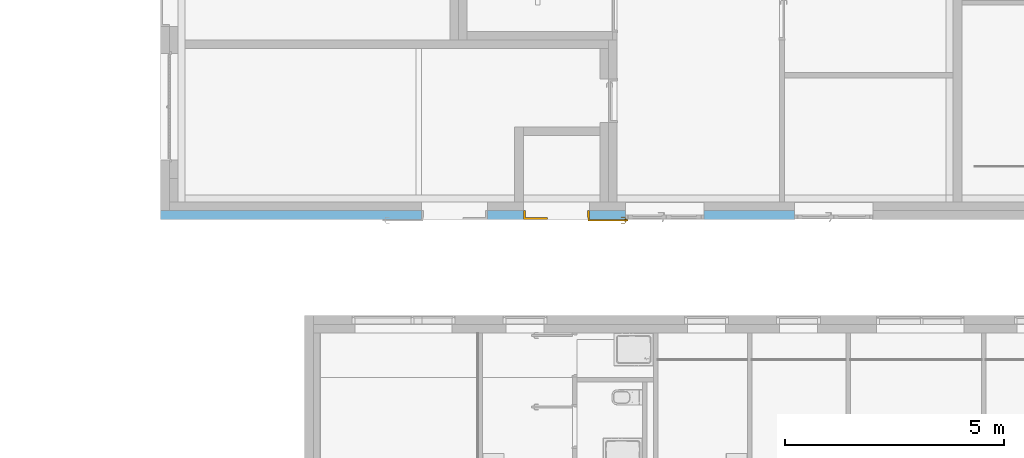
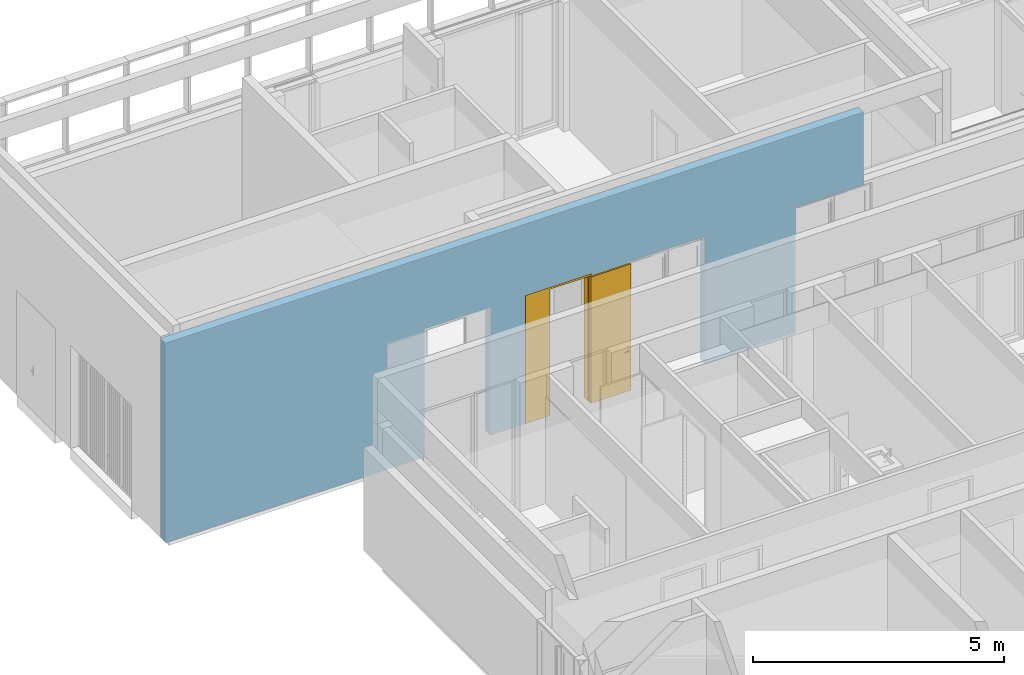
# One storey, part 207 of 240: 1 door, 10 openings, plus 1 element that does not belong to this part.
"""IFC2X3 building model written with IfcOpenShell, lengths in centimetres."""

from ifc_helpers import new_model, entity, si_unit, converted_unit, derived_unit, direction, frame, frame_2d, origin, place, context, subcontext, project, spatial, rectangle, extrude, faceted_brep, source, transform, mapped, material, material_list, layer, layer_set, layer_usage, type_object, type_shapes, element, fill, save


model = new_model("IFC2X3")

# Units and contexts
model_context = context("Model", 3, precision=0.001, world=origin(), true_north=direction((6.12303176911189e-17, 1.0)))
body_context = subcontext(model_context, "Body", "Model", "MODEL_VIEW")
ifc_project = project(units=[si_unit("LENGTHUNIT", "METRE", prefix="CENTI"), si_unit("AREAUNIT", "SQUARE_METRE"), si_unit("VOLUMEUNIT", "CUBIC_METRE"), converted_unit("PLANEANGLEUNIT", "DEGREE", entity("IfcRatioMeasure", 0.0174532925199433), si_unit("PLANEANGLEUNIT", "RADIAN"), dimensions=[0, 0, 0, 0, 0, 0, 0]), si_unit("MASSUNIT", "GRAM", prefix="KILO"), derived_unit("MASSDENSITYUNIT", [(si_unit("MASSUNIT", "GRAM", prefix="KILO"), 1), (si_unit("LENGTHUNIT", "METRE"), -3)]), si_unit("TIMEUNIT", "SECOND"), si_unit("FREQUENCYUNIT", "HERTZ"), si_unit("THERMODYNAMICTEMPERATUREUNIT", "DEGREE_CELSIUS"), derived_unit("THERMALTRANSMITTANCEUNIT", [(si_unit("MASSUNIT", "GRAM", prefix="KILO"), 1), (si_unit("THERMODYNAMICTEMPERATUREUNIT", "KELVIN"), -1), (si_unit("TIMEUNIT", "SECOND"), -3)]), derived_unit("VOLUMETRICFLOWRATEUNIT", [(si_unit("LENGTHUNIT", "METRE"), 3), (si_unit("TIMEUNIT", "SECOND"), -1)]), si_unit("ELECTRICCURRENTUNIT", "AMPERE"), si_unit("ELECTRICVOLTAGEUNIT", "VOLT"), si_unit("POWERUNIT", "WATT"), si_unit("FORCEUNIT", "NEWTON", prefix="KILO"), si_unit("ILLUMINANCEUNIT", "LUX"), si_unit("LUMINOUSFLUXUNIT", "LUMEN"), si_unit("LUMINOUSINTENSITYUNIT", "CANDELA"), derived_unit("USERDEFINED", [(si_unit("MASSUNIT", "GRAM", prefix="KILO"), -1), (si_unit("LENGTHUNIT", "METRE"), -2), (si_unit("TIMEUNIT", "SECOND"), 3), (si_unit("LUMINOUSFLUXUNIT", "LUMEN"), 1)]), derived_unit("LINEARVELOCITYUNIT", [(si_unit("LENGTHUNIT", "METRE"), 1), (si_unit("TIMEUNIT", "SECOND"), -1)]), si_unit("PRESSUREUNIT", "PASCAL"), derived_unit("USERDEFINED", [(si_unit("LENGTHUNIT", "METRE"), -2), (si_unit("MASSUNIT", "GRAM", prefix="KILO"), 1), (si_unit("TIMEUNIT", "SECOND"), -2)])], contexts=[model_context])

# Site, building, storey
site_placement = place(None, frame((-2781.94577612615, 7442.24238424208, 0.0)))
site = spatial("IfcSite", under=ifc_project, at=site_placement, Name="Default", CompositionType="ELEMENT")
building_placement = place(site_placement, origin())
building = spatial("IfcBuilding", under=site, at=building_placement, CompositionType="ELEMENT")
storey_placement = place(building_placement, origin())
storey = spatial("IfcBuildingStorey", under=building, at=storey_placement, Name="N00 - COO", CompositionType="ELEMENT", Elevation=0.0)

# Wall, openings, door
ifc_material_1 = material(Name="Aluminium bardage")
ifc_layer_1 = layer(ifc_material_1, 0.5)
ifc_material_2 = material(Name="01 - Lame d'air")
ifc_layer_2 = layer(ifc_material_2, 1.5)
ifc_material_3 = material(Name="00 - Isolant")
ifc_layer_3 = layer(ifc_material_3, 18.0)
ifc_layer_set = layer_set([ifc_layer_1, ifc_layer_2, ifc_layer_3], Name="Mur de base:04 - Parement - ITE 18cm + vide 2cm")
ifc_layer_usage = layer_usage(ifc_layer_set, "AXIS2", "POSITIVE", -10.0)
wall_type = type_object("IfcWallType", Name="Mur de base:04 - Parement - ITE 18cm + vide 2cm", PredefinedType="STANDARD", material=ifc_layer_set)
wall_placement = place(building_placement, frame((-11230.6616968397, -840.048500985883, 0.0)))
wall = element("IfcWallStandardCase", 1, at=wall_placement, inside=storey, type_object=wall_type, material=ifc_layer_usage, Name="Mur de base:04 - Parement - ITE 18cm + vide 2cm", ObjectType="Mur de base:04 - Parement - ITE 18cm + vide 2cm", context=body_context, shape_type="SweptSolid", body=[
    extrude(rectangle(XDim=1606.16181917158, YDim=20.0, at=frame_2d((803.080909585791, 2.04281036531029e-14), x_axis=(-1.0, 0.0))), origin(), (0.0, 0.0, 1.0), 486.0),
])
opening_1_placement = place(wall_placement, origin())
element("IfcOpeningElement", 2, at=opening_1_placement, cuts=wall, Name="Mur de base:04 - Parement - ITE 18cm + vide 2cm", ObjectType="Opening", context=body_context, shape_type="SweptSolid", body=[
    extrude(rectangle(XDim=310.999999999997, YDim=99.9999999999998, at=frame_2d((-8.66862137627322e-13, 0.0), x_axis=(0.0, 1.0))), frame((2089.66181923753, -25.24, 155.499999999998), z_axis=(0.0, 1.0, 0.0), x_axis=(-1.0, 0.0, 0.0)), (0.0, 0.0, 1.0), 50.48),
])
opening_2_placement = place(wall_placement, origin())
element("IfcOpeningElement", 3, at=opening_2_placement, cuts=wall, Name="Mur de base:04 - Parement - ITE 18cm + vide 2cm", ObjectType="Opening", context=body_context, shape_type="SweptSolid", body=[
    extrude(rectangle(XDim=224.0, YDim=91.9999999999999, at=frame_2d((2.1316282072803e-14, 0.0), x_axis=(1.0, 0.0))), frame((2591.66181917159, -142.4, 197.700000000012), z_axis=(0.0, 1.0, 0.0), x_axis=(0.0, 0.0, 1.0)), (0.0, 0.0, 1.0), 304.8),
])
opening_3_placement = place(wall_placement, origin())
element("IfcOpeningElement", 4, at=opening_3_placement, cuts=wall, Name="Mur de base:04 - Parement - ITE 18cm + vide 2cm", ObjectType="Opening", context=body_context, shape_type="SweptSolid", body=[
    extrude(rectangle(XDim=316.500000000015, YDim=99.9999999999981, at=frame_2d((0.0, 0.0), x_axis=(0.0, 1.0))), frame((2591.7151206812, -25.2399999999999, 158.250000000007), z_axis=(0.0, 1.0, 0.0), x_axis=(-1.0, 0.0, 0.0)), (0.0, 0.0, 1.0), 50.48),
])
opening_4_placement = place(wall_placement, origin())
element("IfcOpeningElement", 5, at=opening_4_placement, cuts=wall, Name="Mur de base:04 - Parement - ITE 18cm + vide 2cm", ObjectType="Opening", context=body_context, shape_type="SweptSolid", body=[
    extrude(rectangle(XDim=310.999999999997, YDim=99.9999999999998, at=frame_2d((-8.66862137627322e-13, 0.0), x_axis=(0.0, 1.0))), frame((2348.66181917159, -25.2400000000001, 155.499999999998), z_axis=(0.0, 1.0, 0.0), x_axis=(-1.0, 0.0, 0.0)), (0.0, 0.0, 1.0), 50.48),
])
opening_5_placement = place(wall_placement, origin())
element("IfcOpeningElement", 6, at=opening_5_placement, cuts=wall, Name="Mur de base:04 - Parement - ITE 18cm + vide 2cm", ObjectType="Opening", context=body_context, shape_type="SweptSolid", body=[
    extrude(rectangle(XDim=224.0, YDim=91.9999999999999, at=frame_2d((-7.105427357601e-15, 0.0), x_axis=(1.0, 0.0))), frame((2348.60851766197, -142.4, 192.0), z_axis=(0.0, 1.0, 0.0), x_axis=(0.0, 0.0, 1.0)), (0.0, 0.0, 1.0), 304.8),
])
opening_6_placement = place(wall_placement, origin())
element("IfcOpeningElement", 7, at=opening_6_placement, cuts=wall, Name="Mur de base:04 - Parement - ITE 18cm + vide 2cm", ObjectType="Opening", context=body_context, shape_type="SweptSolid", body=[
    extrude(rectangle(XDim=224.0, YDim=91.9999999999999, at=frame_2d((-7.105427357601e-15, 0.0), x_axis=(1.0, 0.0))), frame((2089.60851772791, -142.4, 192.0), z_axis=(0.0, 1.0, 0.0), x_axis=(0.0, 0.0, 1.0)), (0.0, 0.0, 1.0), 304.8),
])
opening_7_placement = place(wall_placement, frame((747.161819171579, 10.0, 0.0)))
element("IfcOpeningElement", 8, at=opening_7_placement, cuts=wall, Name="Int. Tierce:PP (1.80m x 3.11m):1", ObjectType="Opening", context=body_context, shape_type="SweptSolid", body=[
    extrude(rectangle(XDim=311.000000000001, YDim=151.0, at=frame_2d((155.500000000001, 75.5000000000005), x_axis=(1.0, 0.0))), frame((0.0, 0.0, 0.0), z_axis=(0.0, -1.0, 0.0), x_axis=(0.0, 0.0, 1.0)), (0.0, 0.0, 1.0), 20.0),
])
opening_8_placement = place(wall_placement, frame((11230.6616968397, 840.048500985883, 0.0)))
element("IfcOpeningElement", 9, at=opening_8_placement, cuts=wall, Name="Mur de base:04 - Parement - ITE 18cm + vide 2cm", ObjectType="Opening", context=body_context, shape_type="SweptSolid", body=[
    extrude(rectangle(XDim=326.0, YDim=179.999999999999, at=frame_2d((0.0, 8.66862137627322e-13), x_axis=(1.0, 0.0))), frame((-10078.6616968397, -850.148500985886, 148.0), z_axis=(0.0, 1.0, 0.0), x_axis=(0.0, 0.0, -1.0)), (0.0, 0.0, 1.0), 61.3),
])
opening_9_placement = place(wall_placement, frame((1448.16181917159, -10.1000000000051, -15.0)))
element("IfcOpeningElement", 10, at=opening_9_placement, cuts=wall, Name="Mur de base:04 - Parement - ITE 18cm + vide 2cm", ObjectType="Opening", context=body_context, shape_type="Brep", body=[
    faceted_brep([(178.0, 0.0, 324.0), (2.0, 0.0, 324.0), (2.0, 0.0, 0.0), (178.0, 0.0, 0.0), (178.0, 1.2999999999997, 0.0), (178.0, 1.29999999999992, 324.0), (2.0, 1.30000000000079, 0.0), (0.0, 1.30000000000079, 0.0), (0.0, 61.3000000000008, 0.0), (180.0, 61.2999999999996, 0.0), (180.0, 1.2999999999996, 0.0), (2.0, 1.30000000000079, 324.0), (0.0, 61.3000000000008, 326.0), (180.0, 61.2999999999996, 326.0), (0.0, 1.30000000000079, 326.0), (180.0, 1.2999999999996, 326.0)], [[[0, 1, 2, 3]], [[3, 4, 5, 0]], [[2, 6, 7, 8, 9, 10, 4, 3]], [[1, 11, 6, 2]], [[0, 5, 11, 1]], [[12, 13, 9, 8]], [[14, 7, 6, 11, 5, 4, 10, 15]], [[8, 7, 14, 12]], [[13, 15, 10, 9]], [[12, 14, 15, 13]]]),
])
opening_10_placement = place(wall_placement, frame((980.080909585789, 10.0, 0.0)))
opening_10 = element("IfcOpeningElement", 11, at=opening_10_placement, cuts=wall, Name="Int. Tierce:PP (1.80m x 3.11m):1", ObjectType="Opening", context=body_context, shape_type="SweptSolid", body=[
    extrude(rectangle(XDim=311.000000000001, YDim=151.0, at=frame_2d((155.500000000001, 75.4999999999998), x_axis=(1.0, 0.0))), frame((0.0, 0.0, 0.0), z_axis=(0.0, -1.0, 0.0), x_axis=(0.0, 0.0, 1.0)), (0.0, 0.0, 1.0), 20.0),
])
ifc_material_4 = material(Name="Finition Peinture - Blanc satiné")
ifc_material_5 = material(Name="Bois - Panneau de porte")
ifc_material_6 = material(Name="Bois - Cadre de porte")
ifc_material_list_1 = material_list([ifc_material_4, ifc_material_5, ifc_material_6])
ifc_material_list_2 = material_list([ifc_material_4, ifc_material_5, ifc_material_6])
door_style = type_object("IfcDoorStyle", Name="PP (1.80m x 3.11m)", ConstructionType="NOTDEFINED", OperationType="DOUBLE_DOOR_SINGLE_SWING", ParameterTakesPrecedence=False, Sizeable=False, material=ifc_material_list_2)
shared_shape = source(origin(), body_context, "Body", "Brep", [
    faceted_brep([(239.464723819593, 0.49999999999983, 86.6003983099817), (238.500000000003, 0.499999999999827, 87.0), (238.500000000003, 0.499999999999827, 108.0), (239.464723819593, 0.49999999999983, 108.399601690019), (240.500000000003, 0.499999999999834, 108.535898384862), (241.535276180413, 0.499999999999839, 108.399601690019), (242.500000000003, 0.499999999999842, 108.0), (242.500000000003, 0.499999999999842, 87.0), (241.535276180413, 0.499999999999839, 86.6003983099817), (240.500000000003, 0.499999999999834, 86.464101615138), (239.464723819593, 0.0, 108.399601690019), (238.500000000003, 0.0, 108.0), (238.500000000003, 0.0, 87.0), (239.464723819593, 0.0, 86.6003983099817), (240.500000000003, 0.0, 86.464101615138), (241.535276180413, 0.0, 86.6003983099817), (242.500000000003, 0.0, 87.0), (242.500000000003, 0.0, 108.0), (241.535276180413, 0.0, 108.399601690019), (240.500000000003, 0.0, 108.535898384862)], [[[0, 1, 2, 3, 4, 5, 6, 7, 8, 9]], [[10, 11, 12, 13, 14, 15, 16, 17, 18, 19]], [[16, 15, 8, 7]], [[8, 15, 14, 9]], [[14, 13, 0, 9]], [[13, 12, 1, 0]], [[2, 1, 12, 11]], [[11, 10, 3, 2]], [[3, 10, 19, 4]], [[19, 18, 5, 4]], [[18, 17, 6, 5]], [[7, 6, 17, 16]]]),
    faceted_brep([(239.464723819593, -4.0, 86.6003983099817), (238.500000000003, -4.0, 87.0), (238.500000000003, -4.0, 108.0), (239.464723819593, -4.0, 108.399601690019), (240.500000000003, -4.0, 108.535898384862), (241.535276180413, -4.0, 108.399601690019), (242.500000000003, -4.0, 108.0), (242.500000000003, -4.0, 87.0), (241.535276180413, -4.0, 86.6003983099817), (240.500000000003, -4.0, 86.464101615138), (239.464723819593, -4.50000000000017, 108.399601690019), (238.500000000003, -4.50000000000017, 108.0), (238.500000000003, -4.50000000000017, 87.0), (239.464723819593, -4.50000000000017, 86.6003983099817), (240.500000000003, -4.50000000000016, 86.464101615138), (241.535276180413, -4.50000000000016, 86.6003983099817), (242.500000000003, -4.50000000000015, 87.0), (242.500000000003, -4.50000000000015, 108.0), (241.535276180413, -4.50000000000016, 108.399601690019), (240.500000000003, -4.50000000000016, 108.535898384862)], [[[0, 1, 2, 3, 4, 5, 6, 7, 8, 9]], [[10, 11, 12, 13, 14, 15, 16, 17, 18, 19]], [[11, 10, 3, 2]], [[3, 10, 19, 4]], [[19, 18, 5, 4]], [[18, 17, 6, 5]], [[7, 6, 17, 16]], [[16, 15, 8, 7]], [[8, 15, 14, 9]], [[14, 13, 0, 9]], [[13, 12, 1, 0]], [[2, 1, 12, 11]]]),
    faceted_brep([(240.702529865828, 0.499999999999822, 100.778044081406), (240.297470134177, 0.499999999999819, 100.778044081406), (239.9, 0.499999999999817, 100.699999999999), (239.900000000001, 0.499999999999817, 99.3000000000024), (240.297470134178, 0.499999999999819, 99.2219559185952), (240.702529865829, 0.499999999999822, 99.221955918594), (241.100000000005, 0.499999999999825, 99.2999999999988), (241.100000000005, 0.499999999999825, 100.7), (241.100000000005, 3.26509507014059, 100.7), (240.702529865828, 3.10045754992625, 100.778044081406), (239.097641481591, 4.70534593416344, 100.778044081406), (238.92986024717, 4.30028620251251, 100.778044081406), (240.297470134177, 2.93267631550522, 100.778044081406), (239.9, 2.76803879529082, 100.7), (239.9, 2.76803879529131, 99.3000000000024), (240.297470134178, 2.93267631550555, 99.2219559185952), (238.92986024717, 4.3002862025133, 99.2219559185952), (239.097641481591, 4.70534593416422, 99.221955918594), (240.702529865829, 3.10045754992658, 99.221955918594), (241.100000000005, 3.26509507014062, 99.2999999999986), (239.262279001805, 5.10281606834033, 100.7), (238.765222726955, 3.90281606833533, 100.7), (238.765222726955, 3.9028160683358, 99.3000000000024), (239.262279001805, 5.10281606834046, 99.2999999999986), (230.498135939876, 5.1028160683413, 99.2999999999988), (230.498135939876, 4.70534593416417, 99.221955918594), (230.498135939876, 4.30028620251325, 99.2219559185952), (230.498135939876, 3.90281606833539, 99.3000000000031), (230.498135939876, 3.90281606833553, 100.7), (230.498135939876, 4.30028620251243, 100.778044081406), (230.498135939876, 4.70534593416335, 100.778044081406), (230.498135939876, 5.10281606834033, 100.699999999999), (235.269230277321, 5.10281606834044, 100.7), (234.713998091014, 4.50281606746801, 100.78786867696), (234.631679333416, 3.90281606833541, 100.7), (234.631679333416, 3.90281606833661, 99.3000000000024), (234.713998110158, 4.50281607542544, 99.2121313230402), (235.269229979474, 5.10281606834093, 99.2999999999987)], [[[0, 1, 2, 3, 4, 5, 6, 7]], [[8, 9, 0, 7]], [[9, 10, 11, 12, 1, 0]], [[12, 13, 2, 1]], [[3, 2, 13, 14]], [[14, 15, 4, 3]], [[15, 16, 17, 18, 5, 4]], [[18, 19, 6, 5]], [[7, 6, 19, 8]], [[20, 10, 9, 8]], [[11, 21, 13, 12]], [[14, 13, 21, 22]], [[22, 16, 15, 14]], [[17, 23, 19, 18]], [[8, 19, 23, 20]], [[24, 25, 26, 27, 28, 29, 30, 31]], [[32, 30, 33]], [[31, 30, 32]], [[10, 20, 32]], [[33, 34, 11]], [[21, 11, 34]], [[34, 29, 28]], [[30, 29, 33]], [[29, 34, 33]], [[10, 32, 33]], [[10, 33, 11]], [[22, 21, 34, 28, 27, 35]], [[35, 26, 36]], [[37, 36, 25]], [[22, 35, 16]], [[35, 27, 26]], [[24, 37, 25]], [[23, 17, 37]], [[37, 17, 36]], [[17, 16, 36]], [[16, 35, 36]], [[25, 36, 26]], [[20, 23, 37, 24, 31, 32]]]),
    faceted_brep([(240.702529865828, -4.50000000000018, 100.778044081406), (241.100000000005, -4.50000000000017, 100.7), (241.100000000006, -4.50000000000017, 99.2999999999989), (240.702529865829, -4.50000000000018, 99.221955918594), (240.297470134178, -4.50000000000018, 99.2219559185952), (239.9, -4.50000000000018, 99.3000000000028), (239.9, -4.50000000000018, 100.7), (240.297470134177, -4.50000000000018, 100.778044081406), (239.9, -6.74852045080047, 99.3000000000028), (239.9, -6.74852045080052, 100.7), (240.297470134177, -6.91315797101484, 100.778044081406), (238.916109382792, -8.29451872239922, 100.778044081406), (239.083890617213, -8.69957845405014, 100.778044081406), (240.702529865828, -7.08093920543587, 100.778044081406), (241.100000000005, -7.24557672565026, 100.7), (241.100000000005, -7.24557672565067, 99.2999999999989), (240.702529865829, -7.08093920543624, 99.221955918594), (239.083890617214, -8.69957845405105, 99.221955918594), (238.916109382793, -8.29451872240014, 99.2219559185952), (240.297470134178, -6.91315797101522, 99.2219559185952), (238.751471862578, -7.89704858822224, 99.3000000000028), (238.751471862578, -7.89704858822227, 100.7), (239.248528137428, -9.09704858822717, 100.7), (239.248528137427, -9.09704858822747, 99.2999999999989), (230.495421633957, -7.89704858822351, 99.3000000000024), (230.495421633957, -8.29451872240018, 99.2219559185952), (230.495421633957, -8.69957845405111, 99.221955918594), (230.495421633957, -9.09704858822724, 99.2999999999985), (230.495421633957, -9.09704858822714, 100.7), (230.495421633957, -8.69957845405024, 100.778044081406), (230.495421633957, -8.29451872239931, 100.778044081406), (230.495421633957, -7.89704858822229, 100.7), (234.623447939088, -7.89704858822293, 99.3000000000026), (234.623446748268, -7.89704858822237, 100.7), (234.70576551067, -8.49704858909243, 100.78786867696), (235.255479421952, -9.09704858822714, 100.7), (235.255479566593, -9.09704858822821, 99.2999999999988), (234.705765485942, -8.49704858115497, 99.2121313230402)], [[[0, 1, 2, 3, 4, 5, 6, 7]], [[6, 5, 8, 9]], [[9, 10, 7, 6]], [[10, 11, 12, 13, 0, 7]], [[13, 14, 1, 0]], [[2, 1, 14, 15]], [[15, 16, 3, 2]], [[16, 17, 18, 19, 4, 3]], [[19, 8, 5, 4]], [[9, 8, 20, 21]], [[21, 11, 10, 9]], [[12, 22, 14, 13]], [[15, 14, 22, 23]], [[23, 17, 16, 15]], [[18, 20, 8, 19]], [[24, 25, 26, 27, 28, 29, 30, 31]], [[21, 20, 32, 24, 31, 33]], [[33, 30, 34]], [[35, 34, 29]], [[21, 33, 11]], [[33, 31, 30]], [[28, 35, 29]], [[22, 12, 35]], [[35, 12, 34]], [[12, 11, 34]], [[11, 33, 34]], [[29, 34, 30]], [[22, 35, 28, 27, 36, 23]], [[36, 26, 37]], [[27, 26, 36]], [[17, 23, 36]], [[37, 32, 18]], [[20, 18, 32]], [[32, 25, 24]], [[26, 25, 37]], [[25, 32, 37]], [[17, 36, 37]], [[17, 37, 18]]]),
    faceted_brep([(246.500000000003, -4.0, 307.5), (154.500000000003, -4.0, 307.5), (154.500000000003, -4.0, 0.0), (246.500000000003, -4.0, 0.0), (246.500000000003, 0.0, 307.5), (246.500000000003, 0.0, 0.0), (154.500000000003, 0.0, 0.0), (154.500000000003, 0.0, 307.5)], [[[0, 1, 2, 3]], [[4, 5, 6, 7]], [[1, 0, 4, 7]], [[2, 1, 7, 6]], [[3, 2, 6, 5]], [[0, 3, 5, 4]]]),
    faceted_brep([(158.0, 0.0, 0.0), (154.500000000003, 0.0, 0.0), (154.500000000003, 4.0, 0.0), (153.0, 4.0, 0.0), (153.0, 20.0, 0.0), (158.0, 20.0, 0.0), (158.0, 20.0, 311.0), (158.0, 0.0, 311.0), (153.0, 20.0, 306.0), (12.0, 20.0, 306.0), (12.0, 20.0, 0.0), (7.0, 20.0, 0.0), (7.0, 20.0, 311.0), (153.0, 4.0, 306.0), (154.500000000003, 4.0, 307.5), (10.5000000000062, 4.0, 307.5), (10.5000000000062, 4.0, 0.0), (12.0, 4.0, 0.0), (12.0, 4.0, 306.0), (154.500000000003, 0.0, 307.5), (7.0, 0.0, 311.0), (7.0, 0.0, 0.0), (10.5000000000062, 0.0, 0.0), (10.5000000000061, 0.0, 307.5)], [[[0, 1, 2, 3, 4, 5]], [[5, 6, 7, 0]], [[4, 8, 9, 10, 11, 12, 6, 5]], [[3, 13, 8, 4]], [[2, 14, 15, 16, 17, 18, 13, 3]], [[1, 19, 14, 2]], [[0, 7, 20, 21, 22, 23, 19, 1]], [[12, 11, 21, 20]], [[21, 11, 10, 17, 16, 22]], [[18, 17, 10, 9]], [[23, 22, 16, 15]], [[6, 12, 20, 7]], [[13, 18, 9, 8]], [[19, 23, 15, 14]]]),
    faceted_brep([(10.500000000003, 0.0, 307.5), (62.5000000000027, 0.0, 307.5), (62.5000000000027, 4.0, 307.5), (10.500000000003, 4.0, 307.5), (10.500000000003, 0.0, 0.0), (10.500000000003, 4.0, 0.0), (62.5000000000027, 4.0, 0.0), (62.5000000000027, 0.0, 0.0)], [[[0, 1, 2, 3]], [[4, 5, 6, 7]], [[3, 5, 4, 0]], [[2, 6, 5, 3]], [[1, 7, 6, 2]], [[0, 4, 7, 1]]]),
    faceted_brep([(156.500000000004, 20.0, 0.0), (156.500000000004, 20.5000000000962, 0.0), (159.500000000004, 20.5000000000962, 0.0), (159.500000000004, 20.0, 0.0), (159.500000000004, 20.0, 312.500000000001), (5.50000000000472, 20.0, 312.500000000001), (5.50000000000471, 20.0, 0.0), (8.50000000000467, 20.0, 0.0), (8.50000000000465, 20.0, 309.500000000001), (156.500000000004, 20.0, 309.500000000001), (159.500000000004, 20.5000000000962, 312.500000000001), (156.500000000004, 20.5000000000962, 309.500000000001), (8.50000000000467, 20.5000000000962, 309.500000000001), (8.50000000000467, 20.5000000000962, 0.0), (5.50000000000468, 20.5000000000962, 0.0), (5.50000000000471, 20.5000000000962, 312.500000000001)], [[[0, 1, 2, 3]], [[3, 4, 5, 6, 7, 8, 9, 0]], [[2, 10, 4, 3]], [[1, 11, 12, 13, 14, 15, 10, 2]], [[0, 9, 11, 1]], [[7, 6, 14, 13]], [[8, 7, 13, 12]], [[15, 14, 6, 5]], [[9, 8, 12, 11]], [[10, 15, 5, 4]]]),
    faceted_brep([(159.500000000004, -0.500000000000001, 0.0), (159.500000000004, -0.500000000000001, 312.500000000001), (5.50000000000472, -0.500000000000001, 312.500000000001), (5.50000000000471, -0.500000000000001, 0.0), (8.50000000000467, -0.500000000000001, 0.0), (8.50000000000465, -0.500000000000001, 309.500000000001), (156.500000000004, -0.500000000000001, 309.500000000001), (156.500000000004, -0.500000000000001, 0.0), (159.500000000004, 0.0, 0.0), (159.500000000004, 0.0, 312.500000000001), (156.500000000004, 0.0, 0.0), (156.500000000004, 0.0, 309.500000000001), (8.50000000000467, 0.0, 309.500000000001), (8.50000000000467, 0.0, 0.0), (5.50000000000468, 0.0, 0.0), (5.50000000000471, 0.0, 312.500000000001)], [[[0, 1, 2, 3, 4, 5, 6, 7]], [[8, 9, 1, 0]], [[10, 11, 12, 13, 14, 15, 9, 8]], [[7, 6, 11, 10]], [[5, 4, 13, 12]], [[15, 14, 3, 2]], [[6, 5, 12, 11]], [[9, 15, 2, 1]], [[4, 3, 14, 13]], [[7, 10, 8, 0]]]),
])
type_shapes(door_style, [shared_shape])
door_placement = place(opening_10_placement, frame((-158.0, -20.0, 0.0)))
door = element("IfcDoor", 12, at=door_placement, inside=storey, type_object=door_style, material=ifc_material_list_1, Name="Int. Tierce:PP (1.80m x 3.11m)", ObjectType="Int. Tierce:PP (1.80m x 3.11m)", OverallHeight=311.000000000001, OverallWidth=151.0, context=body_context, shape_type="MappedRepresentation", body=[
    mapped(shared_shape, transform((0.0, 0.0, 0.0), scale=1.0)),
])
fill(opening_10, door)

save(model, "model.ifc")
